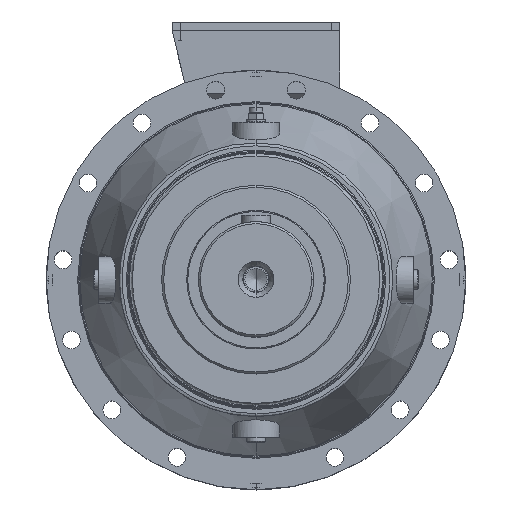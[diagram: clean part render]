
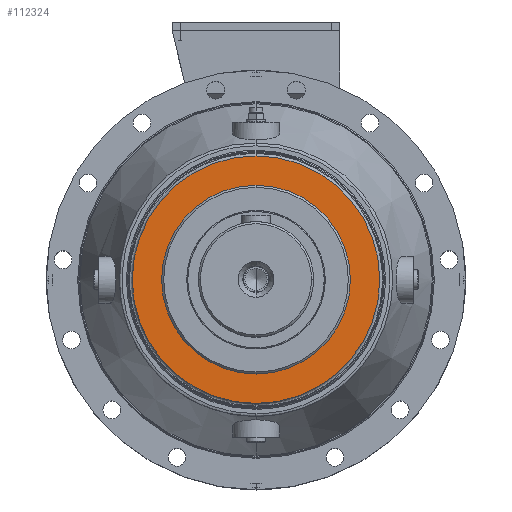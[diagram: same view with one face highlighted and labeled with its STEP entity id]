
A CAD part, top view. The second image highlights one B-rep face of the part: STEP entity #112324.
In plain terms, the highlighted planar face has unit normal (0, 0, 1).
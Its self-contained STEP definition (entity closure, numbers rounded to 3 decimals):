
#13149 = EDGE_CURVE ( 'NONE', #139344, #139339, #73300, .T. ) ;
#13220 = EDGE_CURVE ( 'NONE', #70844, #139333, #73380, .T. ) ;
#13307 = EDGE_CURVE ( 'NONE', #139339, #139344, #73509, .T. ) ;
#30782 = AXIS2_PLACEMENT_3D ( 'NONE', #75971, #75916, #75973 ) ;
#30809 = AXIS2_PLACEMENT_3D ( 'NONE', #75787, #75733, #75739 ) ;
#31007 = AXIS2_PLACEMENT_3D ( 'NONE', #74345, #74377, #74336 ) ;
#48393 = CARTESIAN_POINT ( 'NONE',  ( 0., -118., 175. ) ) ;
#48407 = CARTESIAN_POINT ( 'NONE',  ( 0., -90., 175. ) ) ;
#48426 = CARTESIAN_POINT ( 'NONE',  ( 0., 90., 175. ) ) ;
#50695 = ORIENTED_EDGE ( 'NONE', *, *, #13149, .F. ) ;
#50883 = ORIENTED_EDGE ( 'NONE', *, *, #13220, .F. ) ;
#50987 = ORIENTED_EDGE ( 'NONE', *, *, #13307, .F. ) ;
#50997 = ORIENTED_EDGE ( 'NONE', *, *, #117893, .F. ) ;
#70844 = VERTEX_POINT ( 'NONE', #72496 ) ;
#72496 = CARTESIAN_POINT ( 'NONE',  ( 0., 118., 175. ) ) ;
#73300 = CIRCLE ( 'NONE', #30809, 90. ) ;
#73380 = CIRCLE ( 'NONE', #30782, 118. ) ;
#73509 = CIRCLE ( 'NONE', #31007, 90. ) ;
#74336 = DIRECTION ( 'NONE',  ( 0., 1., 0. ) ) ;
#74345 = CARTESIAN_POINT ( 'NONE',  ( 0., 0., 175. ) ) ;
#74377 = DIRECTION ( 'NONE',  ( 0., 0., 1. ) ) ;
#75733 = DIRECTION ( 'NONE',  ( 0., 0., 1. ) ) ;
#75739 = DIRECTION ( 'NONE',  ( 0., 1., 0. ) ) ;
#75787 = CARTESIAN_POINT ( 'NONE',  ( 0., 0., 175. ) ) ;
#75916 = DIRECTION ( 'NONE',  ( 0., 0., -1. ) ) ;
#75971 = CARTESIAN_POINT ( 'NONE',  ( 0., 0., 175. ) ) ;
#75973 = DIRECTION ( 'NONE',  ( 0., 1., 0. ) ) ;
#84820 = AXIS2_PLACEMENT_3D ( 'NONE', #138303, #138271, #138287 ) ;
#86013 = AXIS2_PLACEMENT_3D ( 'NONE', #89702, #89730, #89700 ) ;
#89700 = DIRECTION ( 'NONE',  ( 0., 1., 0. ) ) ;
#89702 = CARTESIAN_POINT ( 'NONE',  ( 0., 118., 175. ) ) ;
#89719 = PLANE ( 'NONE',  #86013 ) ;
#89730 = DIRECTION ( 'NONE',  ( 0., 0., -1. ) ) ;
#112324 = ADVANCED_FACE ( 'NONE', ( #138951, #138892 ), #89719, .F. ) ;
#117893 = EDGE_CURVE ( 'NONE', #139333, #70844, #134383, .T. ) ;
#124997 = EDGE_LOOP ( 'NONE', ( #50997, #50883 ) ) ;
#125286 = EDGE_LOOP ( 'NONE', ( #50695, #50987 ) ) ;
#134383 = CIRCLE ( 'NONE', #84820, 118. ) ;
#138271 = DIRECTION ( 'NONE',  ( 0., 0., -1. ) ) ;
#138287 = DIRECTION ( 'NONE',  ( 0., 1., 0. ) ) ;
#138303 = CARTESIAN_POINT ( 'NONE',  ( 0., 0., 175. ) ) ;
#138892 = FACE_OUTER_BOUND ( 'NONE', #124997, .T. ) ;
#138951 = FACE_BOUND ( 'NONE', #125286, .T. ) ;
#139333 = VERTEX_POINT ( 'NONE', #48393 ) ;
#139339 = VERTEX_POINT ( 'NONE', #48407 ) ;
#139344 = VERTEX_POINT ( 'NONE', #48426 ) ;
